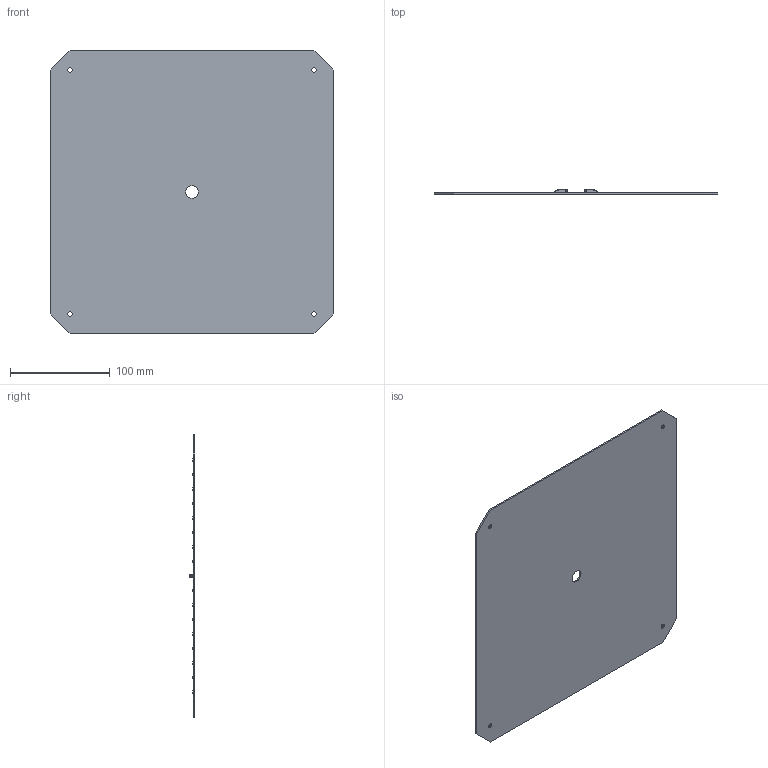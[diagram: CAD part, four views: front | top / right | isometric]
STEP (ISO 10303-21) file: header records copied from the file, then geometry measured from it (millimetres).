
FILE_DESCRIPTION (( 'STEP AP214' ), '1' );
FILE_NAME ('BXEB-SQ0284 ver. E (15-000678 revA).STEP', '2020-11-12T20:06:12', ( '' ), ( '' ), 'SwSTEP 2.0', 'SolidWorks 2020', '' );
FILE_SCHEMA (( 'AUTOMOTIVE_DESIGN' ));
Length unit declared in the file: millimetre
Products named in the file (1): BXEB-SQ0284 ver. E (15-000678 revA)
Bounding box: 284 x 5.45 x 284 mm (x, y, z)
Volume: 121640.5 mm3; surface area: 163803.7 mm2
Topology: 3 solids, 3 shells, 2198 faces, 5563 edges, 3728 vertices
Faces by surface type: plane 1843, bspline 224, cylinder 127, cone 4
Full cylindrical faces by diameter (mm): 0.597 x1, 1.019 x1, 1.5 x2, 2 x2, 3 x2, 4.5 x4, 12.7 x1
Entity records: 99073 total; most frequent: CARTESIAN_POINT 24181, ORIENTED_EDGE 11088, DIRECTION 8662, EDGE_CURVE 5544, VECTOR 4608, LINE 4608, VERTEX_POINT 3728, EDGE_LOOP 2584
